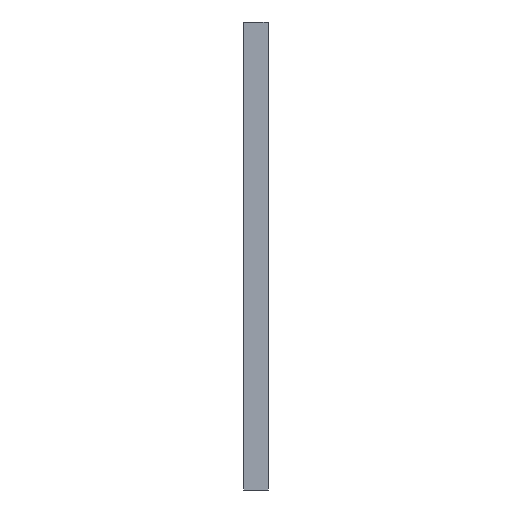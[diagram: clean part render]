
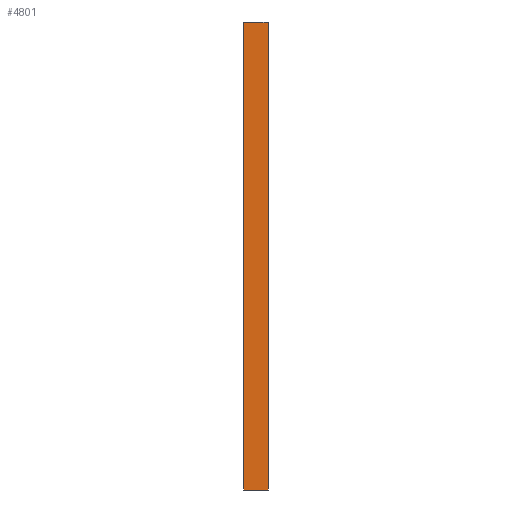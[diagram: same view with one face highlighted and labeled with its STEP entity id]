
A CAD part, left-side view. The second image highlights one B-rep face of the part: STEP entity #4801.
In plain terms, the highlighted planar face has unit normal (-1, 0, 0).
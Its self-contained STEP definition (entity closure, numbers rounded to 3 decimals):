
#160 = CARTESIAN_POINT ( 'NONE',  ( -21.25, 73., 0. ) ) ;
#337 = CARTESIAN_POINT ( 'NONE',  ( -21.25, 0., 0. ) ) ;
#937 = VERTEX_POINT ( 'NONE', #160 ) ;
#960 = VECTOR ( 'NONE', #3807, 1000. ) ;
#1098 = LINE ( 'NONE', #3058, #4589 ) ;
#1251 = LINE ( 'NONE', #337, #4944 ) ;
#1297 = CARTESIAN_POINT ( 'NONE',  ( -21.25, 73., 1404. ) ) ;
#1853 = EDGE_CURVE ( 'NONE', #2449, #6332, #1098, .T. ) ;
#2103 = ORIENTED_EDGE ( 'NONE', *, *, #5833, .T. ) ;
#2357 = CARTESIAN_POINT ( 'NONE',  ( -21.25, 0., 1404. ) ) ;
#2449 = VERTEX_POINT ( 'NONE', #1297 ) ;
#2830 = VECTOR ( 'NONE', #3937, 1000. ) ;
#2841 = LINE ( 'NONE', #8471, #960 ) ;
#3058 = CARTESIAN_POINT ( 'NONE',  ( -21.25, 0., 1404. ) ) ;
#3071 = DIRECTION ( 'NONE',  ( 1., 0., 0. ) ) ;
#3298 = CARTESIAN_POINT ( 'NONE',  ( -21.25, -0.75, 1404. ) ) ;
#3341 = VERTEX_POINT ( 'NONE', #6043 ) ;
#3570 = DIRECTION ( 'NONE',  ( 0., -1., 0. ) ) ;
#3740 = ORIENTED_EDGE ( 'NONE', *, *, #4887, .T. ) ;
#3807 = DIRECTION ( 'NONE',  ( 0., 0., -1. ) ) ;
#3937 = DIRECTION ( 'NONE',  ( 0., 0., 1. ) ) ;
#4589 = VECTOR ( 'NONE', #3570, 1000. ) ;
#4683 = LINE ( 'NONE', #3298, #2830 ) ;
#4801 = ADVANCED_FACE ( 'NONE', ( #5359 ), #8010, .F. ) ;
#4887 = EDGE_CURVE ( 'NONE', #937, #3341, #1251, .T. ) ;
#4944 = VECTOR ( 'NONE', #5201, 1000. ) ;
#5201 = DIRECTION ( 'NONE',  ( 0., -1., 0. ) ) ;
#5304 = CARTESIAN_POINT ( 'NONE',  ( -21.25, -0.75, 1404. ) ) ;
#5359 = FACE_OUTER_BOUND ( 'NONE', #6603, .T. ) ;
#5833 = EDGE_CURVE ( 'NONE', #2449, #937, #2841, .T. ) ;
#6043 = CARTESIAN_POINT ( 'NONE',  ( -21.25, -0.75, 0. ) ) ;
#6332 = VERTEX_POINT ( 'NONE', #5304 ) ;
#6343 = EDGE_CURVE ( 'NONE', #3341, #6332, #4683, .T. ) ;
#6603 = EDGE_LOOP ( 'NONE', ( #3740, #6750, #7370, #2103 ) ) ;
#6750 = ORIENTED_EDGE ( 'NONE', *, *, #6343, .T. ) ;
#7370 = ORIENTED_EDGE ( 'NONE', *, *, #1853, .F. ) ;
#7777 = DIRECTION ( 'NONE',  ( 0., 0., -1. ) ) ;
#8010 = PLANE ( 'NONE',  #8388 ) ;
#8388 = AXIS2_PLACEMENT_3D ( 'NONE', #2357, #3071, #7777 ) ;
#8471 = CARTESIAN_POINT ( 'NONE',  ( -21.25, 73., 1404. ) ) ;
